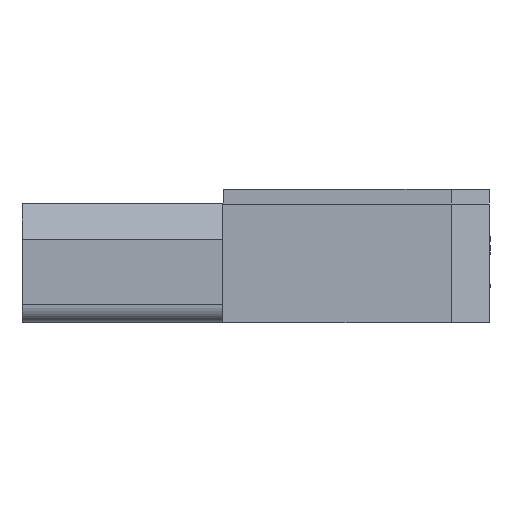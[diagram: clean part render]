
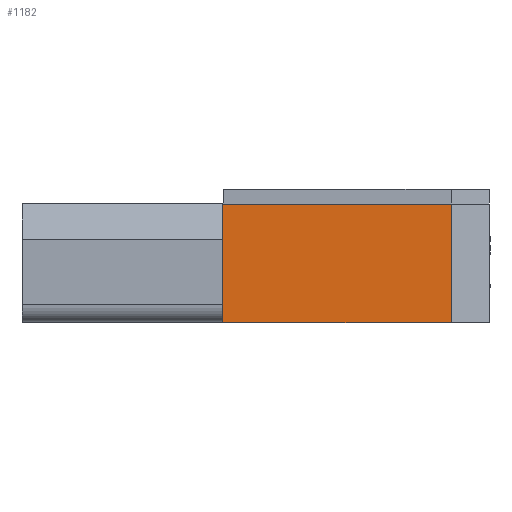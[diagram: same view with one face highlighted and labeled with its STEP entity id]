
A CAD part, front view. The second image highlights one B-rep face of the part: STEP entity #1182.
In plain terms, the highlighted planar face has unit normal (0, -1, 0).
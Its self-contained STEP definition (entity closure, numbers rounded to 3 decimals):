
#1182=ADVANCED_FACE('',(#2910),#2911,.F.);
#2910=FACE_OUTER_BOUND('',#5407,.T.);
#2911=PLANE('',#5408);
#5407=EDGE_LOOP('',(#8917,#8918,#8919,#8920));
#5408=AXIS2_PLACEMENT_3D('',#8921,#8922,#8923);
#8917=ORIENTED_EDGE('',*,*,#14924,.T.);
#8918=ORIENTED_EDGE('',*,*,#15433,.T.);
#8919=ORIENTED_EDGE('',*,*,#15434,.F.);
#8920=ORIENTED_EDGE('',*,*,#15029,.F.);
#8921=CARTESIAN_POINT('',(17.0,0.0,0.0));
#8922=DIRECTION('',(0.0,1.0,0.0));
#8923=DIRECTION('',(1.0,-0.0,0.0));
#14924=EDGE_CURVE('',#17684,#17682,#17685,.T.);
#15029=EDGE_CURVE('',#17684,#17863,#17871,.T.);
#15433=EDGE_CURVE('',#17682,#18520,#18521,.T.);
#15434=EDGE_CURVE('',#17863,#18520,#18522,.T.);
#17682=VERTEX_POINT('',#21779);
#17684=VERTEX_POINT('',#21782);
#17685=LINE('',#21783,#21784);
#17863=VERTEX_POINT('',#22076);
#17871=LINE('',#22088,#22089);
#18520=VERTEX_POINT('',#23148);
#18521=LINE('',#23149,#23150);
#18522=LINE('',#23151,#23152);
#21779=CARTESIAN_POINT('',(77.,0.0,40.0));
#21782=CARTESIAN_POINT('',(77.,0.0,0.0));
#21783=CARTESIAN_POINT('',(77.,0.0,0.0));
#21784=VECTOR('',#27802,1.0);
#22076=CARTESIAN_POINT('',(0.0,0.0,0.0));
#22088=CARTESIAN_POINT('',(17.0,0.0,0.0));
#22089=VECTOR('',#27863,1.0);
#23148=CARTESIAN_POINT('',(0.0,0.0,40.0));
#23149=CARTESIAN_POINT('',(17.0,0.0,40.0));
#23150=VECTOR('',#28117,1.0);
#23151=CARTESIAN_POINT('',(0.0,0.0,0.0));
#23152=VECTOR('',#28118,1.0);
#27802=DIRECTION('',(0.0,0.0,1.0));
#27863=DIRECTION('',(-1.0,0.0,0.0));
#28117=DIRECTION('',(-1.0,0.0,0.0));
#28118=DIRECTION('',(0.0,0.0,1.0));
